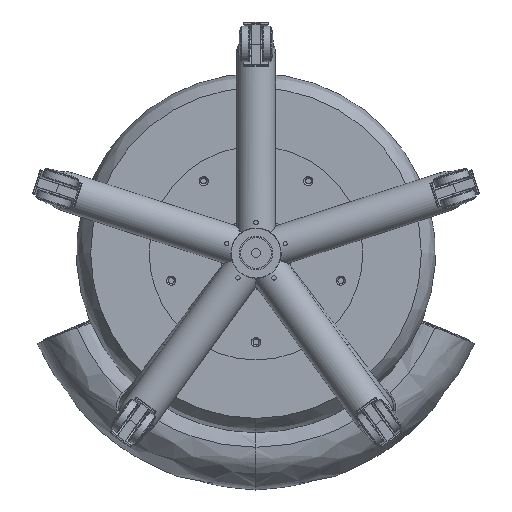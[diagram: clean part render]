
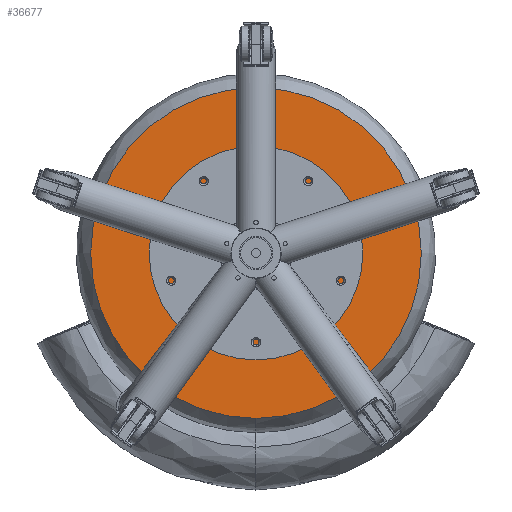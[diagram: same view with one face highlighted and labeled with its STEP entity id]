
A CAD part, front view. The second image highlights one B-rep face of the part: STEP entity #36677.
In plain terms, the highlighted planar face has unit normal (0, -1, 0).
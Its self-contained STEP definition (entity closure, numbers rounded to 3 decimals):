
#2572 = EDGE_CURVE ( 'NONE', #47874, #26070, #56356, .T. ) ;
#3444 = VECTOR ( 'NONE', #50277, 1000. ) ;
#4985 = DIRECTION ( 'NONE',  ( 0., 0., 1. ) ) ;
#5310 = AXIS2_PLACEMENT_3D ( 'NONE', #104000, #152604, #4985 ) ;
#6000 = DIRECTION ( 'NONE',  ( 0., 0., 1. ) ) ;
#6950 = EDGE_CURVE ( 'NONE', #84712, #84874, #107410, .T. ) ;
#7050 = DIRECTION ( 'NONE',  ( 0., 0., 1. ) ) ;
#8083 = ORIENTED_EDGE ( 'NONE', *, *, #89822, .F. ) ;
#9983 = VERTEX_POINT ( 'NONE', #113972 ) ;
#11194 = CARTESIAN_POINT ( 'NONE',  ( 81.354, 360., -123.442 ) ) ;
#14186 = AXIS2_PLACEMENT_3D ( 'NONE', #47984, #61560, #75946 ) ;
#15834 = ORIENTED_EDGE ( 'NONE', *, *, #2572, .F. ) ;
#15853 = VECTOR ( 'NONE', #63046, 1000. ) ;
#18207 = DIRECTION ( 'NONE',  ( 0., 1., 0. ) ) ;
#19209 = DIRECTION ( 'NONE',  ( 0., 1., 0. ) ) ;
#19501 = DIRECTION ( 'NONE',  ( 0., 1., 0. ) ) ;
#19577 = AXIS2_PLACEMENT_3D ( 'NONE', #79478, #30727, #153644 ) ;
#20575 = PLANE ( 'NONE',  #130319 ) ;
#20800 = CARTESIAN_POINT ( 'NONE',  ( -81.354, 360., -123.442 ) ) ;
#21798 = CIRCLE ( 'NONE', #14186, 10. ) ;
#26070 = VERTEX_POINT ( 'NONE', #49447 ) ;
#28167 = VERTEX_POINT ( 'NONE', #118515 ) ;
#30533 = ORIENTED_EDGE ( 'NONE', *, *, #139820, .T. ) ;
#30727 = DIRECTION ( 'NONE',  ( 0., -1., 0. ) ) ;
#31465 = CARTESIAN_POINT ( 'NONE',  ( 122.615, 360., -161.158 ) ) ;
#35817 = CIRCLE ( 'NONE', #5310, 232. ) ;
#36677 = ADVANCED_FACE ( 'NONE', ( #78932, #127607, #115650 ), #20575, .F. ) ;
#36874 = DIRECTION ( 'NONE',  ( 0., 0., -1. ) ) ;
#37104 = CARTESIAN_POINT ( 'NONE',  ( -97.27, 360., -111.332 ) ) ;
#38968 = EDGE_CURVE ( 'NONE', #84874, #142160, #157245, .T. ) ;
#39633 = AXIS2_PLACEMENT_3D ( 'NONE', #61622, #123084, #36874 ) ;
#43435 = DIRECTION ( 'NONE',  ( 0., 0., -1. ) ) ;
#43733 = VERTEX_POINT ( 'NONE', #105809 ) ;
#45088 = CIRCLE ( 'NONE', #19577, 10. ) ;
#47874 = VERTEX_POINT ( 'NONE', #127226 ) ;
#47984 = CARTESIAN_POINT ( 'NONE',  ( 89.312, 360., -117.387 ) ) ;
#48681 = AXIS2_PLACEMENT_3D ( 'NONE', #31465, #19501, #43435 ) ;
#49447 = CARTESIAN_POINT ( 'NONE',  ( 0., 360., 232. ) ) ;
#49765 = DIRECTION ( 'NONE',  ( 0., 0., -1. ) ) ;
#50277 = DIRECTION ( 'NONE',  ( 0.606, 0., -0.796 ) ) ;
#51233 = AXIS2_PLACEMENT_3D ( 'NONE', #66329, #19209, #79137 ) ;
#52091 = VERTEX_POINT ( 'NONE', #142689 ) ;
#53921 = EDGE_CURVE ( 'NONE', #9983, #72780, #45088, .T. ) ;
#54370 = ORIENTED_EDGE ( 'NONE', *, *, #53921, .F. ) ;
#56100 = ORIENTED_EDGE ( 'NONE', *, *, #119300, .T. ) ;
#56356 = CIRCLE ( 'NONE', #148169, 232. ) ;
#58976 = LINE ( 'NONE', #154794, #130337 ) ;
#60689 = LINE ( 'NONE', #136510, #3444 ) ;
#61560 = DIRECTION ( 'NONE',  ( 0., 1., 0. ) ) ;
#61622 = CARTESIAN_POINT ( 'NONE',  ( -89.312, 360., -117.387 ) ) ;
#63046 = DIRECTION ( 'NONE',  ( -0.606, 0., 0.796 ) ) ;
#63425 = DIRECTION ( 'NONE',  ( -0.606, 0., -0.796 ) ) ;
#66329 = CARTESIAN_POINT ( 'NONE',  ( 122.615, 360., -161.158 ) ) ;
#71553 = CARTESIAN_POINT ( 'NONE',  ( -114.656, 360., -167.213 ) ) ;
#71768 = EDGE_CURVE ( 'NONE', #26070, #47874, #35817, .T. ) ;
#72780 = VERTEX_POINT ( 'NONE', #71553 ) ;
#73397 = EDGE_CURVE ( 'NONE', #72780, #88703, #58976, .T. ) ;
#73736 = CARTESIAN_POINT ( 'NONE',  ( 97.27, 360., -111.332 ) ) ;
#75190 = VECTOR ( 'NONE', #63425, 1000. ) ;
#75946 = DIRECTION ( 'NONE',  ( 0., 0., -1. ) ) ;
#78932 = FACE_OUTER_BOUND ( 'NONE', #97004, .T. ) ;
#79137 = DIRECTION ( 'NONE',  ( 0., 0., -1. ) ) ;
#79478 = CARTESIAN_POINT ( 'NONE',  ( -122.615, 360., -161.158 ) ) ;
#81305 = CARTESIAN_POINT ( 'NONE',  ( 0., 360., -232. ) ) ;
#81846 = CIRCLE ( 'NONE', #51233, 10. ) ;
#83483 = CARTESIAN_POINT ( 'NONE',  ( 81.354, 360., -123.442 ) ) ;
#84712 = VERTEX_POINT ( 'NONE', #101066 ) ;
#84874 = VERTEX_POINT ( 'NONE', #139305 ) ;
#88703 = VERTEX_POINT ( 'NONE', #20800 ) ;
#89822 = EDGE_CURVE ( 'NONE', #43733, #28167, #112946, .T. ) ;
#90591 = ORIENTED_EDGE ( 'NONE', *, *, #6950, .T. ) ;
#93147 = CIRCLE ( 'NONE', #39633, 10. ) ;
#97004 = EDGE_LOOP ( 'NONE', ( #15834, #157772 ) ) ;
#97577 = EDGE_CURVE ( 'NONE', #28167, #9983, #144177, .T. ) ;
#100948 = AXIS2_PLACEMENT_3D ( 'NONE', #136770, #147153, #49765 ) ;
#101066 = CARTESIAN_POINT ( 'NONE',  ( 122.615, 360., -171.158 ) ) ;
#104000 = CARTESIAN_POINT ( 'NONE',  ( 0., 360., 0. ) ) ;
#104215 = ORIENTED_EDGE ( 'NONE', *, *, #148845, .T. ) ;
#105809 = CARTESIAN_POINT ( 'NONE',  ( -97.27, 360., -111.332 ) ) ;
#107410 = CIRCLE ( 'NONE', #48681, 10. ) ;
#112946 = LINE ( 'NONE', #37104, #75190 ) ;
#113972 = CARTESIAN_POINT ( 'NONE',  ( -122.615, 360., -171.158 ) ) ;
#115384 = CARTESIAN_POINT ( 'NONE',  ( 0., 360., 0. ) ) ;
#115650 = FACE_BOUND ( 'NONE', #116059, .T. ) ;
#116059 = EDGE_LOOP ( 'NONE', ( #30533, #104215, #56100, #90591, #148825 ) ) ;
#118515 = CARTESIAN_POINT ( 'NONE',  ( -130.573, 360., -155.103 ) ) ;
#119300 = EDGE_CURVE ( 'NONE', #52091, #84712, #81846, .T. ) ;
#120945 = ORIENTED_EDGE ( 'NONE', *, *, #157358, .F. ) ;
#123084 = DIRECTION ( 'NONE',  ( 0., -1., 0. ) ) ;
#124364 = ORIENTED_EDGE ( 'NONE', *, *, #73397, .F. ) ;
#127226 = CARTESIAN_POINT ( 'NONE',  ( 0., 360., -232. ) ) ;
#127607 = FACE_BOUND ( 'NONE', #155090, .T. ) ;
#130319 = AXIS2_PLACEMENT_3D ( 'NONE', #81305, #18207, #7050 ) ;
#130337 = VECTOR ( 'NONE', #144374, 1000. ) ;
#136510 = CARTESIAN_POINT ( 'NONE',  ( 97.27, 360., -111.332 ) ) ;
#136770 = CARTESIAN_POINT ( 'NONE',  ( -122.615, 360., -161.158 ) ) ;
#139305 = CARTESIAN_POINT ( 'NONE',  ( 114.656, 360., -167.213 ) ) ;
#139820 = EDGE_CURVE ( 'NONE', #142160, #156072, #21798, .T. ) ;
#142160 = VERTEX_POINT ( 'NONE', #83483 ) ;
#142689 = CARTESIAN_POINT ( 'NONE',  ( 130.573, 360., -155.103 ) ) ;
#144177 = CIRCLE ( 'NONE', #100948, 10. ) ;
#144374 = DIRECTION ( 'NONE',  ( 0.606, 0., 0.796 ) ) ;
#147153 = DIRECTION ( 'NONE',  ( 0., -1., 0. ) ) ;
#148169 = AXIS2_PLACEMENT_3D ( 'NONE', #115384, #148910, #6000 ) ;
#148825 = ORIENTED_EDGE ( 'NONE', *, *, #38968, .T. ) ;
#148845 = EDGE_CURVE ( 'NONE', #156072, #52091, #60689, .T. ) ;
#148910 = DIRECTION ( 'NONE',  ( 0., 1., 0. ) ) ;
#151277 = ORIENTED_EDGE ( 'NONE', *, *, #97577, .F. ) ;
#152604 = DIRECTION ( 'NONE',  ( 0., 1., 0. ) ) ;
#153644 = DIRECTION ( 'NONE',  ( 0., 0., -1. ) ) ;
#154794 = CARTESIAN_POINT ( 'NONE',  ( -81.354, 360., -123.442 ) ) ;
#155090 = EDGE_LOOP ( 'NONE', ( #8083, #120945, #124364, #54370, #151277 ) ) ;
#156072 = VERTEX_POINT ( 'NONE', #73736 ) ;
#157245 = LINE ( 'NONE', #11194, #15853 ) ;
#157358 = EDGE_CURVE ( 'NONE', #88703, #43733, #93147, .T. ) ;
#157772 = ORIENTED_EDGE ( 'NONE', *, *, #71768, .F. ) ;
